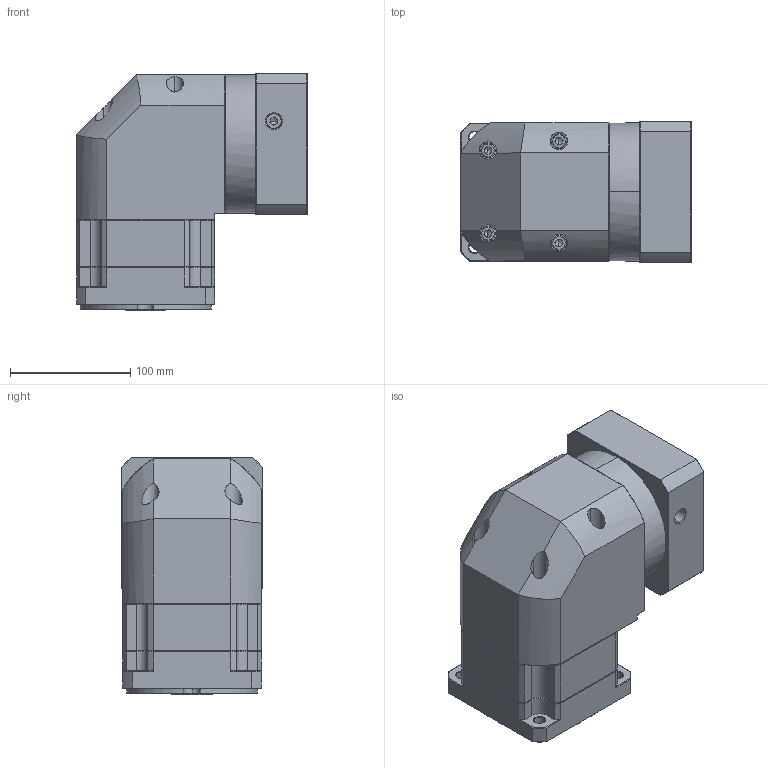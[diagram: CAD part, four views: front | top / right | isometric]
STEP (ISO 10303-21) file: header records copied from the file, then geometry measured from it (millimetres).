
FILE_DESCRIPTION (( 'STEP AP214' ), '1' );
FILE_NAME ('ZBR115A-K25-L1-P2-19-95-115-M8.step', '2023-08-26T12:41:54', ( '' ), ( '' ), 'SwSTEP 2.0', 'SolidWorks 2016', '' );
FILE_SCHEMA (( 'AUTOMOTIVE_DESIGN' ));
Length unit declared in the file: millimetre
Products named in the file (1): ZBR115A-K25-L1-P2-19-95-115-M8
Bounding box: 192.4 x 118 x 198 mm (x, y, z)
Volume: 2917847.3 mm3; surface area: 244230.3 mm2
Topology: 6 solids, 6 shells, 2323 faces, 6099 edges, 3880 vertices
Faces by surface type: plane 1132, bspline 415, cylinder 406, cone 362, torus 8
Entity records: 122692 total; most frequent: CARTESIAN_POINT 43242, ORIENTED_EDGE 12142, DIRECTION 9615, EDGE_CURVE 6071, VECTOR 3937, LINE 3937, VERTEX_POINT 3880, AXIS2_PLACEMENT_3D 2839
